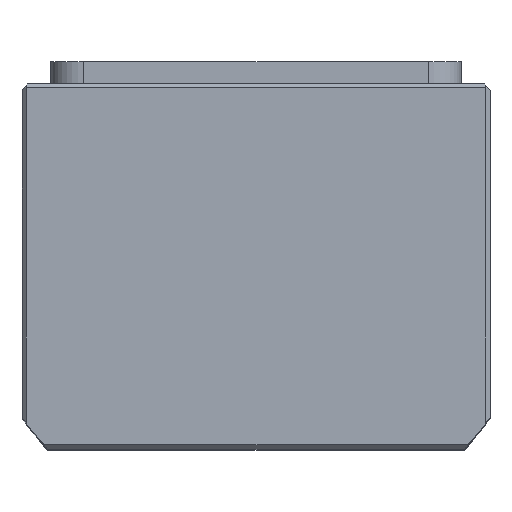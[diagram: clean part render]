
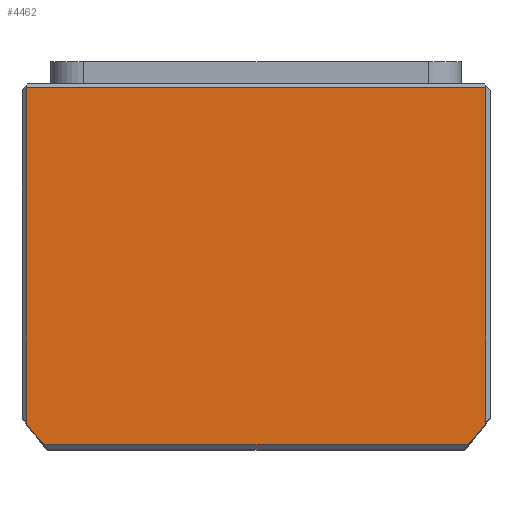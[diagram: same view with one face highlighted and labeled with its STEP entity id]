
A CAD part, top view. The second image highlights one B-rep face of the part: STEP entity #4462.
In plain terms, the highlighted planar face has unit normal (0, 0, 1) as drawn and (0, 0, -1) by its records, which use the part's own axes.
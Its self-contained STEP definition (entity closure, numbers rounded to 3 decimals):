
#76 = VECTOR ( 'NONE', #15239, 1000. ) ;
#443 = AXIS2_PLACEMENT_3D ( 'NONE', #15163, #18871, #7840 ) ;
#484 = DIRECTION ( 'NONE',  ( 0., 0., 1. ) ) ;
#573 = CARTESIAN_POINT ( 'NONE',  ( -56., 0., 0. ) ) ;
#1405 = DIRECTION ( 'NONE',  ( 0., 0., 1. ) ) ;
#1795 = CARTESIAN_POINT ( 'NONE',  ( 56., -43.5, 0. ) ) ;
#2247 = CARTESIAN_POINT ( 'NONE',  ( -51.66, 43.5, 0. ) ) ;
#2867 = VERTEX_POINT ( 'NONE', #18266 ) ;
#3811 = AXIS2_PLACEMENT_3D ( 'NONE', #12401, #1405, #14220 ) ;
#3996 = LINE ( 'NONE', #18634, #18052 ) ;
#4127 = VECTOR ( 'NONE', #14475, 1000. ) ;
#4462 = ADVANCED_FACE ( 'NONE', ( #15328 ), #7590, .F. ) ;
#4873 = EDGE_CURVE ( 'NONE', #8218, #23067, #13854, .T. ) ;
#6489 = ORIENTED_EDGE ( 'NONE', *, *, #4873, .T. ) ;
#6927 = VERTEX_POINT ( 'NONE', #22739 ) ;
#7590 = PLANE ( 'NONE',  #443 ) ;
#7840 = DIRECTION ( 'NONE',  ( 1., 0., 0. ) ) ;
#8115 = LINE ( 'NONE', #573, #22214 ) ;
#8218 = VERTEX_POINT ( 'NONE', #2247 ) ;
#8236 = EDGE_CURVE ( 'NONE', #8218, #20162, #23009, .T. ) ;
#8945 = CARTESIAN_POINT ( 'NONE',  ( 0., 43.5, 0. ) ) ;
#9170 = EDGE_CURVE ( 'NONE', #6927, #20162, #8115, .T. ) ;
#9808 = LINE ( 'NONE', #20779, #76 ) ;
#10143 = ORIENTED_EDGE ( 'NONE', *, *, #14979, .F. ) ;
#11465 = CARTESIAN_POINT ( 'NONE',  ( 0., -2.992, 0. ) ) ;
#11486 = DIRECTION ( 'NONE',  ( 0., 1., 0. ) ) ;
#11629 = EDGE_CURVE ( 'NONE', #2867, #15966, #9808, .T. ) ;
#12401 = CARTESIAN_POINT ( 'NONE',  ( 0., -2.992, 0. ) ) ;
#12415 = AXIS2_PLACEMENT_3D ( 'NONE', #11465, #484, #13299 ) ;
#12932 = CARTESIAN_POINT ( 'NONE',  ( 51.66, 43.5, 0. ) ) ;
#13299 = DIRECTION ( 'NONE',  ( 1., 0., 0. ) ) ;
#13854 = LINE ( 'NONE', #8945, #4127 ) ;
#14220 = DIRECTION ( 'NONE',  ( 1., 0., 0. ) ) ;
#14475 = DIRECTION ( 'NONE',  ( 1., 0., 0. ) ) ;
#14979 = EDGE_CURVE ( 'NONE', #2867, #23067, #21215, .T. ) ;
#15163 = CARTESIAN_POINT ( 'NONE',  ( 0., 0., 0. ) ) ;
#15239 = DIRECTION ( 'NONE',  ( 0., -1., 0. ) ) ;
#15328 = FACE_OUTER_BOUND ( 'NONE', #18425, .T. ) ;
#15966 = VERTEX_POINT ( 'NONE', #1795 ) ;
#16242 = EDGE_CURVE ( 'NONE', #15966, #6927, #3996, .T. ) ;
#17500 = ORIENTED_EDGE ( 'NONE', *, *, #9170, .T. ) ;
#18052 = VECTOR ( 'NONE', #22390, 1000. ) ;
#18266 = CARTESIAN_POINT ( 'NONE',  ( 56., 38.169, 0. ) ) ;
#18312 = CARTESIAN_POINT ( 'NONE',  ( -56., 38.169, 0. ) ) ;
#18425 = EDGE_LOOP ( 'NONE', ( #10143, #19288, #19060, #17500, #19372, #6489 ) ) ;
#18634 = CARTESIAN_POINT ( 'NONE',  ( 0., -43.5, 0. ) ) ;
#18871 = DIRECTION ( 'NONE',  ( 0., 0., 1. ) ) ;
#19060 = ORIENTED_EDGE ( 'NONE', *, *, #16242, .T. ) ;
#19288 = ORIENTED_EDGE ( 'NONE', *, *, #11629, .T. ) ;
#19372 = ORIENTED_EDGE ( 'NONE', *, *, #8236, .F. ) ;
#20162 = VERTEX_POINT ( 'NONE', #18312 ) ;
#20779 = CARTESIAN_POINT ( 'NONE',  ( 56., 0., 0. ) ) ;
#21215 = CIRCLE ( 'NONE', #3811, 69.5 ) ;
#22214 = VECTOR ( 'NONE', #11486, 1000. ) ;
#22390 = DIRECTION ( 'NONE',  ( -1., 0., 0. ) ) ;
#22739 = CARTESIAN_POINT ( 'NONE',  ( -56., -43.5, 0. ) ) ;
#23009 = CIRCLE ( 'NONE', #12415, 69.5 ) ;
#23067 = VERTEX_POINT ( 'NONE', #12932 ) ;
